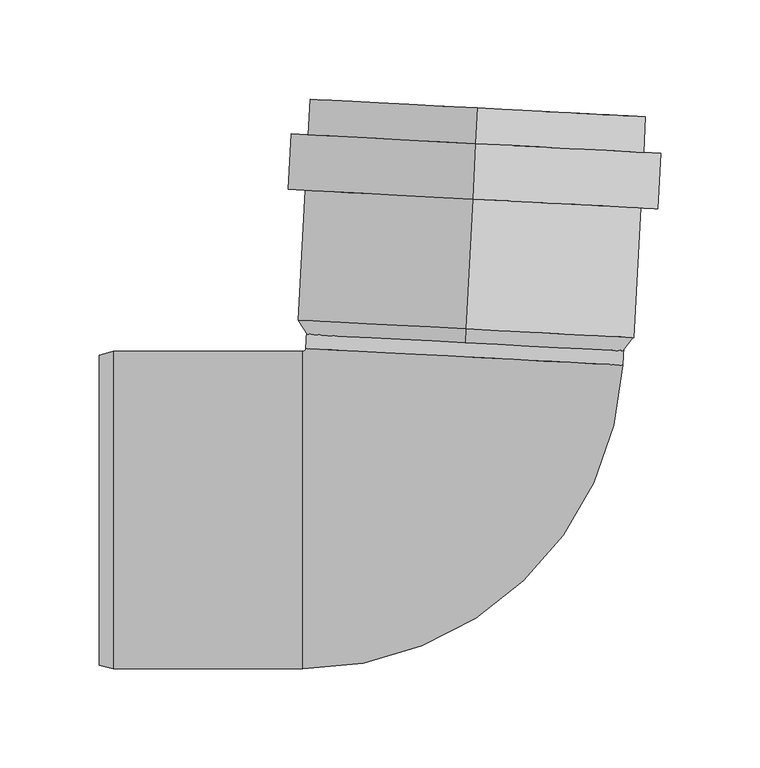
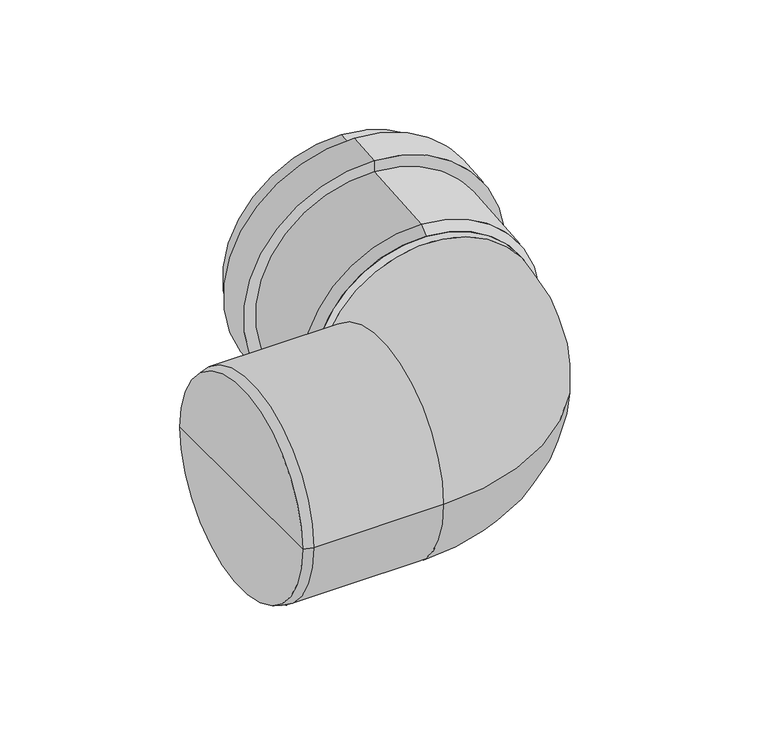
"""IFC4 building model written with IfcOpenShell, lengths in millimetres: pipe fitting geometry, OSMA_KG2000_PPKGB : Koleno 87°."""

import ifcopenshell
import ifcopenshell.guid

model = None  # the IFC model being written
_history = None  # IfcOwnerHistory: only IFC2X3 demands one
_inside = {}  # id of a spatial element -> (the spatial element, [elements in it])
_under = {}  # id of a project, library or spatial element -> (it, [spatial elements below it])
_declared = {}  # id of a project -> (the project, [libraries it declares])
_typed = {}  # id of a type object -> (the type object, [elements of that type])
_made_of = {}  # id of a material, layer set ... -> (it, [elements and type objects made of it])


def new_model(schema):
    """Start an empty IFC model of exactly this schema.

    Asked for "IFC4X3", IfcOpenShell would pick the latest addendum, in which some entities
    have other attributes; the version numbers below select the first issue.
    IFC2X3 requires an IfcOwnerHistory on every rooted entity: one is made here for all.
    """
    global model, _history
    if schema == "IFC4X3":
        model = ifcopenshell.file(schema_version=(4, 3, 0, 0))
    else:
        model = ifcopenshell.file(schema=schema)
    _inside.clear()
    _under.clear()
    _declared.clear()
    _typed.clear()
    _made_of.clear()
    _history = None
    if model.schema == "IFC2X3":
        org = make("IfcOrganization", Name="unknown")
        user = make(
            "IfcPersonAndOrganization",
            ThePerson=make("IfcPerson", FamilyName="unknown"),
            TheOrganization=org,
        )
        app = make(
            "IfcApplication",
            ApplicationDeveloper=org,
            Version="unknown",
            ApplicationFullName="unknown",
            ApplicationIdentifier="unknown",
        )
        _history = make(
            "IfcOwnerHistory",
            OwningUser=user,
            OwningApplication=app,
            ChangeAction="ADDED",
            CreationDate=0,
        )
    return model


def make(cls, **values):
    """One entity of the class cls with the attributes given. An attribute that is None is left unset."""
    return model.create_entity(
        cls, **{name: value for name, value in values.items() if value is not None}
    )


def rooted(cls, **values):
    """An entity with a GlobalId (a new one), such as an element, a storey or a relation."""
    return make(cls, GlobalId=ifcopenshell.guid.new(), OwnerHistory=_history, **values)


def si_unit(unit_type, name, prefix=None):
    """IfcSIUnit, for example si_unit("LENGTHUNIT", "METRE", prefix="MILLI")."""
    return make("IfcSIUnit", UnitType=unit_type, Prefix=prefix, Name=name)


def assignment(units):
    """IfcUnitAssignment: the units of a project."""
    return None if units is None else make("IfcUnitAssignment", Units=units)


def point(xyz):
    """IfcCartesianPoint."""
    return None if xyz is None else make("IfcCartesianPoint", Coordinates=xyz)


def direction(xyz):
    """IfcDirection."""
    return None if xyz is None else make("IfcDirection", DirectionRatios=xyz)


def frame(location, z_axis=None, x_axis=None):
    """IfcAxis2Placement3D, a coordinate frame: its origin and axes. An axis left out is left unset."""
    return make(
        "IfcAxis2Placement3D",
        Location=point(location),
        Axis=direction(z_axis),
        RefDirection=direction(x_axis),
    )


def origin():
    """The frame at (0, 0, 0) with its axes left unset."""
    return frame((0.0, 0.0, 0.0))


def place(relative_to, where):
    """IfcLocalPlacement: puts the frame where relative to a parent placement (None: the world)."""
    return make(
        "IfcLocalPlacement", PlacementRelTo=relative_to, RelativePlacement=where
    )


def context(
    kind, dimensions, precision=None, world=None, true_north=None, identifier=None
):
    """IfcGeometricRepresentationContext, for example the 3D "Model" context."""
    return make(
        "IfcGeometricRepresentationContext",
        ContextIdentifier=identifier,
        ContextType=kind,
        CoordinateSpaceDimension=dimensions,
        Precision=precision,
        WorldCoordinateSystem=world,
        TrueNorth=true_north,
    )


def project(units=None, contexts=None):
    """IfcProject with its units and contexts."""
    return rooted(
        "IfcProject",
        Name="project",
        RepresentationContexts=contexts,
        UnitsInContext=assignment(units),
    )


def spatial(cls, under=None, at=None, **own):
    """A site, building, storey or space (cls), placed at a placement, below another one or the project."""
    s = rooted(cls, ObjectPlacement=at, **own)
    if under is not None:
        _under.setdefault(under.id(), (under, []))[1].append(s)
    return s


def polyline(points):
    """IfcPolyline through the points."""
    return make("IfcPolyline", Points=[point(p) for p in points])


def circle_curve(where, radius):
    """IfcCircle in the frame where."""
    return make("IfcCircle", Position=where, Radius=radius)


def ellipse_curve(where, semi_axis1, semi_axis2):
    """IfcEllipse in the frame where."""
    return make(
        "IfcEllipse", Position=where, SemiAxis1=semi_axis1, SemiAxis2=semi_axis2
    )


def trimmed(basis, trim1, trim2, sense, master):
    """IfcTrimmedCurve: the piece of a basis curve between two trims."""
    return make(
        "IfcTrimmedCurve",
        BasisCurve=basis,
        Trim1=trim1,
        Trim2=trim2,
        SenseAgreement=sense,
        MasterRepresentation=master,
    )


def shape(context_of_items, identifier, shape_type, items):
    """IfcShapeRepresentation: the items that make up one representation, for example the "Body"."""
    return make(
        "IfcShapeRepresentation",
        ContextOfItems=context_of_items,
        RepresentationIdentifier=identifier,
        RepresentationType=shape_type,
        Items=items,
    )


def source(mapping_origin, context_of_items, identifier, shape_type, items):
    """IfcRepresentationMap: a shape defined once, which mapped items show again and again."""
    return make(
        "IfcRepresentationMap",
        MappingOrigin=mapping_origin,
        MappedRepresentation=shape(context_of_items, identifier, shape_type, items),
    )


def transform(
    local_origin,
    x_axis=None,
    y_axis=None,
    z_axis=None,
    scale=None,
    scale2=None,
    scale3=None,
    uniform=True,
):
    """IfcCartesianTransformationOperator3D, or its non-uniform kind. x_axis, y_axis, z_axis: its Axis1, 2, 3."""
    if uniform:
        return make(
            "IfcCartesianTransformationOperator3D",
            Axis1=direction(x_axis),
            Axis2=direction(y_axis),
            LocalOrigin=point(local_origin),
            Scale=scale,
            Axis3=direction(z_axis),
        )
    return make(
        "IfcCartesianTransformationOperator3DnonUniform",
        Axis1=direction(x_axis),
        Axis2=direction(y_axis),
        LocalOrigin=point(local_origin),
        Scale=scale,
        Axis3=direction(z_axis),
        Scale2=scale2,
        Scale3=scale3,
    )


def mapped(mapping_source, mapping_target):
    """IfcMappedItem: shows the shape of a source again, moved by a transform."""
    return make(
        "IfcMappedItem", MappingSource=mapping_source, MappingTarget=mapping_target
    )


def made_of(thing, what):
    """Note that an element or type object is made of a material, layer set ...; save() writes the relation."""
    if what is not None:
        _made_of.setdefault(what.id(), (what, []))[1].append(thing)
    return thing


def element(
    cls,
    number,
    at=None,
    inside=None,
    cuts=None,
    type_object=None,
    material=None,
    context=None,
    identifier="Body",
    shape_type=None,
    held_by="IfcProductDefinitionShape",
    body=None,
    shapes=None,
    **own,
):
    """One element of the class cls, such as IfcWall. Its Tag is "e" and its number.

    at: its placement. inside: the storey or other place that contains it. cuts: it is an
    opening in that element (IfcRelVoidsElement). A single representation is given by context,
    identifier, shape_type and body (its items); several are given by shapes. held_by: the class
    of the entity that holds the representations. save() writes the other relations.
    """
    e = rooted(cls, Tag="e%d" % number, ObjectPlacement=at, **own)
    if body is not None:
        shapes = [shape(context, identifier, shape_type, body)]
    if shapes is not None:
        e.Representation = make(held_by, Representations=shapes)
    if inside is not None:
        _inside.setdefault(inside.id(), (inside, []))[1].append(e)
    if cuts is not None:
        rooted(
            "IfcRelVoidsElement", RelatingBuildingElement=cuts, RelatedOpeningElement=e
        )
    if type_object is not None:
        _typed.setdefault(type_object.id(), (type_object, []))[1].append(e)
    return made_of(e, material)


def aggregate(whole, parts):
    """IfcRelAggregates: a whole, such as a stair, and the parts it consists of."""
    return rooted("IfcRelAggregates", RelatingObject=whole, RelatedObjects=parts)


def save(model, path):
    """Write the relations noted so far, then the file.

    IfcRelAggregates (storeys below a building ...), IfcRelContainedInSpatialStructure (elements
    in a storey), IfcRelDefinesByType, IfcRelAssociatesMaterial and IfcRelDeclares: one each for
    every whole, place, type object, material and project.
    """
    for whole, parts in _under.values():
        aggregate(whole, parts)
    for where, things in _inside.values():
        rooted(
            "IfcRelContainedInSpatialStructure",
            RelatedElements=things,
            RelatingStructure=where,
        )
    for kind, things in _typed.values():
        rooted("IfcRelDefinesByType", RelatedObjects=things, RelatingType=kind)
    for what, things in _made_of.values():
        rooted("IfcRelAssociatesMaterial", RelatedObjects=things, RelatingMaterial=what)
    for by, libraries in _declared.values():
        rooted("IfcRelDeclares", RelatingContext=by, RelatedDefinitions=libraries)
    model.write(path)


def plane_surface(at):
    """IfcPlane: the flat surface through the origin of the frame at, square to its z axis."""
    return make("IfcPlane", Position=at)


def cylinder_surface(at, radius):
    """IfcCylindricalSurface: all points at the distance radius from the z axis of the frame at."""
    return make("IfcCylindricalSurface", Position=at, Radius=radius)


def revolved_surface(curve, axis_point, axis_direction):
    """IfcSurfaceOfRevolution: the curve turned about the line through axis_point along axis_direction."""
    return make(
        "IfcSurfaceOfRevolution",
        SweptCurve=make("IfcArbitraryOpenProfileDef", ProfileType="CURVE", Curve=curve),
        AxisPosition=make("IfcAxis1Placement", Location=point(axis_point), Axis=direction(axis_direction)),
    )


def advanced_brep(points, edges, surfaces, faces):
    """IfcAdvancedBrep: a solid bounded by faces that lie on surfaces and meet in shared edges.

    An edge is (start, end): straight between two places in points (the first is 0);
    or (start, end, curve); or (start, end, curve, False) where it runs against its curve.
    A face is (place in surfaces, loops), or (place, loops, False) where it looks against
    its surface's normal. A loop lists edges by number (the first is 1), with a minus sign
    where the edge is run from its end to its start. The first loop is the outer one.
    """
    corners = [point(p) for p in points]
    vertices = [make("IfcVertexPoint", VertexGeometry=c) for c in corners]
    made = []
    for start, end, *more in edges:
        made.append(
            make(
                "IfcEdgeCurve",
                EdgeStart=vertices[start],
                EdgeEnd=vertices[end],
                EdgeGeometry=more[0] if more else make("IfcPolyline", Points=[corners[start], corners[end]]),
                SameSense=more[1] if len(more) > 1 else True,
            )
        )
    hull = []
    for where, loops, *sense in faces:
        bounds = []
        for j, loop in enumerate(loops):
            ring = [make("IfcOrientedEdge", EdgeElement=made[abs(k) - 1], Orientation=k > 0) for k in loop]
            bounds.append(
                make(
                    "IfcFaceOuterBound" if j == 0 else "IfcFaceBound",
                    Bound=make("IfcEdgeLoop", EdgeList=ring),
                    Orientation=True,
                )
            )
        hull.append(make("IfcAdvancedFace", Bounds=bounds, FaceSurface=surfaces[where], SameSense=sense[0] if sense else True))
    return make("IfcAdvancedBrep", Outer=make("IfcClosedShell", CfsFaces=hull))


def pipe_fitting_b5a82955(model_context):
    return source(origin(), model_context, "Body", "AdvancedBrep", [
        advanced_brep(
        [(4.78874, 91.3746024, 80.0), (4.78874, 91.3746024, -80.0), (10.6241991, 202.7217956, -80.0), (10.6241991, 202.7217956, 80.0), (8.2167451, 156.784837, 84.9), (8.2167451, 156.784837, -84.9), (4.78874, 91.3746024, -84.9), (4.78874, 91.3746024, 84.9), (8.2167451, 156.784837, 93.5), (8.2167451, 156.784837, -93.5), (9.6821519, 184.7464639, 93.5), (9.6821519, 184.7464639, -93.5), (9.6821519, 184.7464639, 84.9), (9.6821519, 184.7464639, -84.9), (10.6241991, 202.7217956, 84.9), (10.6241991, 202.7217956, -84.9), (4.4223883, 84.3841957, 75.1), (4.4223883, 84.3841957, -75.1), (4.4223883, 84.3841957, 80.0), (4.4223883, 84.3841957, -80.0)],
        [
            (0, 1, circle_curve(frame((4.78874, 91.3746024, 0.0), z_axis=(-0.0523359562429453, -0.9986295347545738, 0.0), x_axis=(0.0, 0.0, -1.0)), 80.0)),
            (1, 2),
            (2, 3, circle_curve(frame((10.6241991, 202.7217956, 0.0), z_axis=(0.0523359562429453, 0.9986295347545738, 0.0), x_axis=(0.0, 0.0, -1.0)), 80.0)),
            (3, 0),
            (1, 0, circle_curve(frame((4.78874, 91.3746024, 0.0), z_axis=(-0.0523359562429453, -0.9986295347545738, 0.0), x_axis=(0.0, 0.0, -1.0)), 80.0)),
            (3, 2, circle_curve(frame((10.6241991, 202.7217956, 0.0), z_axis=(0.0523359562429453, 0.9986295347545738, 0.0), x_axis=(0.0, 0.0, -1.0)), 80.0)),
            (4, 5, circle_curve(frame((8.2167451, 156.784837, 0.0), z_axis=(-0.0523359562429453, -0.9986295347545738, 0.0), x_axis=(0.0, 0.0, -1.0)), 84.9)),
            (5, 6),
            (6, 7, circle_curve(frame((4.78874, 91.3746024, 0.0), z_axis=(0.0523359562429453, 0.9986295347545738, 0.0), x_axis=(0.0, 0.0, -1.0)), 84.9)),
            (7, 4),
            (5, 4, circle_curve(frame((8.2167451, 156.784837, 0.0), z_axis=(-0.0523359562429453, -0.9986295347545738, 0.0), x_axis=(0.0, 0.0, -1.0)), 84.9)),
            (7, 6, circle_curve(frame((4.78874, 91.3746024, 0.0), z_axis=(0.0523359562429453, 0.9986295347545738, 0.0), x_axis=(0.0, 0.0, -1.0)), 84.9)),
            (8, 9, circle_curve(frame((8.2167451, 156.784837, 0.0), z_axis=(-0.0523359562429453, -0.9986295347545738, 0.0), x_axis=(0.0, 0.0, -1.0)), 93.5)),
            (9, 5),
            (4, 8),
            (9, 8, circle_curve(frame((8.2167451, 156.784837, 0.0), z_axis=(-0.0523359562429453, -0.9986295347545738, 0.0), x_axis=(0.0, 0.0, -1.0)), 93.5)),
            (10, 11, circle_curve(frame((9.6821519, 184.7464639, 0.0), z_axis=(-0.0523359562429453, -0.9986295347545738, 0.0), x_axis=(0.0, 0.0, -1.0)), 93.5)),
            (11, 9),
            (8, 10),
            (11, 10, circle_curve(frame((9.6821519, 184.7464639, 0.0), z_axis=(-0.0523359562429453, -0.9986295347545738, 0.0), x_axis=(0.0, 0.0, -1.0)), 93.5)),
            (12, 13, circle_curve(frame((9.6821519, 184.7464639, 0.0), z_axis=(-0.0523359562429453, -0.9986295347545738, 0.0), x_axis=(0.0, 0.0, -1.0)), 84.9)),
            (13, 11),
            (10, 12),
            (13, 12, circle_curve(frame((9.6821519, 184.7464639, 0.0), z_axis=(-0.0523359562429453, -0.9986295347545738, 0.0), x_axis=(0.0, 0.0, -1.0)), 84.9)),
            (14, 15, circle_curve(frame((10.6241991, 202.7217956, 0.0), z_axis=(-0.0523359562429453, -0.9986295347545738, 0.0), x_axis=(0.0, 0.0, -1.0)), 84.9)),
            (15, 13),
            (12, 14),
            (15, 14, circle_curve(frame((10.6241991, 202.7217956, 0.0), z_axis=(-0.0523359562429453, -0.9986295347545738, 0.0), x_axis=(0.0, 0.0, -1.0)), 84.9)),
            (2, 15),
            (14, 3),
            (16, 17, circle_curve(frame((4.4223883, 84.3841957, 0.0), z_axis=(-0.0523359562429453, -0.9986295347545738, 0.0), x_axis=(0.0, 0.0, -1.0)), 75.1)),
            (17, 1),
            (0, 16),
            (17, 16, circle_curve(frame((4.4223883, 84.3841957, 0.0), z_axis=(-0.0523359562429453, -0.9986295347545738, 0.0), x_axis=(0.0, 0.0, -1.0)), 75.1)),
            (18, 19, circle_curve(frame((4.4223883, 84.3841957, 0.0), z_axis=(-0.0523359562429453, -0.9986295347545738, 0.0), x_axis=(0.0, 0.0, -1.0)), 80.0)),
            (19, 17),
            (16, 18),
            (19, 18, circle_curve(frame((4.4223883, 84.3841957, 0.0), z_axis=(-0.0523359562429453, -0.9986295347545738, 0.0), x_axis=(0.0, 0.0, -1.0)), 80.0)),
            (6, 19),
            (18, 7),
        ],
        [
            revolved_surface(polyline([(10.624199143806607, 202.72179559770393, -80.0), (4.788740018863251, 91.37460239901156, -80.0)]), (150.3336851, 2868.5375937, 0.0), (0.0523359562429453, 0.9986295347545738, 0.0)),
            cylinder_surface(frame((150.3336851, 2868.5375937, 0.0), z_axis=(0.0523359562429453, 0.9986295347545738, 0.0), x_axis=(0.0, 0.0, -1.0)), 84.9),
            plane_surface(frame((8.2167451, 156.784837, 0.0), z_axis=(-0.0523359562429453, -0.9986295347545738, 0.0), x_axis=(0.0, 0.0, -1.0))),
            cylinder_surface(frame((150.3336851, 2868.5375937, 0.0), z_axis=(0.0523359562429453, 0.9986295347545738, 0.0), x_axis=(0.0, 0.0, -1.0)), 93.5),
            plane_surface(frame((9.6821519, 184.7464639, 0.0), z_axis=(0.0523359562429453, 0.9986295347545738, 0.0), x_axis=(0.0, 0.0, -1.0))),
            plane_surface(frame((10.6241991, 202.7217956, 0.0), z_axis=(0.0523359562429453, 0.9986295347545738, 0.0), x_axis=(0.0, 0.0, -1.0))),
            revolved_surface(polyline([(4.78874, 91.3746024, -80.0), (4.4223883, 84.3841957, -75.1)]), (150.3336851, 2868.5375937, 0.0), (0.0523359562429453, 0.9986295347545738, 0.0)),
            plane_surface(frame((4.4223883, 84.3841957, 0.0), z_axis=(-0.0523359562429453, -0.9986295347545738, 0.0), x_axis=(0.0, 0.0, -1.0))),
            revolved_surface(polyline([(4.4223883, 84.3841957, -80.0), (4.78874, 91.3746024, -84.9)]), (150.3336851, 2868.5375937, 0.0), (0.0523359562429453, 0.9986295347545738, 0.0)),
        ],
        [
            (0, [[1, 2, 3, 4]]),
            (0, [[5, -4, 6, -2]]),
            (1, [[7, 8, 9, 10]]),
            (1, [[11, -10, 12, -8]]),
            (2, [[13, 14, -7, 15]]),
            (2, [[16, -15, -11, -14]]),
            (3, [[17, 18, -13, 19]]),
            (3, [[20, -19, -16, -18]]),
            (4, [[21, 22, -17, 23]]),
            (4, [[24, -23, -20, -22]]),
            (1, [[25, 26, -21, 27]]),
            (1, [[28, -27, -24, -26]]),
            (5, [[-3, 29, -25, 30]]),
            (5, [[-6, -30, -28, -29]]),
            (6, [[31, 32, -1, 33]]),
            (6, [[34, -33, -5, -32]]),
            (7, [[35, 36, -31, 37]]),
            (7, [[38, -37, -34, -36]]),
            (8, [[-9, 39, -35, 40]]),
            (8, [[-12, -40, -38, -39]]),
        ],
    ),
        advanced_brep(
        [(-75.8426679, 81.4214961, 0.0), (-77.3406122, 80.0, 0.0), (-77.3406122, -80.0, 0.0), (83.9380577, 73.0477431, 0.0), (4.0476949, 77.2346196, 80.0), (4.0476949, 77.2346196, -80.0), (-180.0, 0.0, 0.0), (-180.0, 78.1243556, 0.0), (-180.0, -78.1243556, 0.0), (-173.0, 80.0, 0.0), (-173.0, -80.0, 0.0), (84.6529348, 86.6884112, 0.0), (-75.1277908, 95.0621642, 0.0)],
        [
            (0, 1, circle_curve(frame((-77.3406122, 81.5, 0.0), z_axis=(0.0, 0.0, -1.0), x_axis=(0.0, -1.0, 0.0)), 1.5)),
            (1, 2, circle_curve(frame((-77.3406122, 0.0, 0.0), z_axis=(1.0, 0.0, 0.0), x_axis=(0.0, 1.0, 0.0)), 80.0)),
            (2, 3, circle_curve(frame((-77.3406122, 81.5, 0.0), z_axis=(0.0, 0.0, 1.0), x_axis=(0.0, -1.0, 0.0)), 161.5)),
            (3, 4, circle_curve(frame((4.0476949, 77.2346196, 0.0), z_axis=(-0.05233595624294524, -0.9986295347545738, 0.0), x_axis=(-0.9986295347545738, 0.05233595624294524, 0.0)), 80.0)),
            (4, 0, circle_curve(frame((4.0476949, 77.2346196, 0.0), z_axis=(-0.05233595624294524, -0.9986295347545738, 0.0), x_axis=(-0.9986295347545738, 0.05233595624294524, 0.0)), 80.0)),
            (0, 5, circle_curve(frame((4.0476949, 77.2346196, 0.0), z_axis=(-0.05233595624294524, -0.9986295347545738, 0.0), x_axis=(-0.9986295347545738, 0.05233595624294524, 0.0)), 80.0)),
            (5, 3, circle_curve(frame((4.0476949, 77.2346196, 0.0), z_axis=(-0.05233595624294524, -0.9986295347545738, 0.0), x_axis=(-0.9986295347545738, 0.05233595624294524, 0.0)), 80.0)),
            (2, 1, circle_curve(frame((-77.3406122, 0.0, 0.0), z_axis=(1.0, 0.0, 0.0), x_axis=(0.0, 1.0, 0.0)), 80.0)),
            (6, 7),
            (7, 8, circle_curve(frame((-180.0, 0.0, 0.0), z_axis=(-1.0, 0.0, 0.0), x_axis=(0.0, 1.0, 0.0)), 78.1243556)),
            (8, 6),
            (8, 7, circle_curve(frame((-180.0, 0.0, 0.0), z_axis=(-1.0, 0.0, 0.0), x_axis=(0.0, 1.0, 0.0)), 78.1243556)),
            (7, 9),
            (9, 10, circle_curve(frame((-173.0, 0.0, 0.0), z_axis=(-1.0, 0.0, 0.0), x_axis=(0.0, 1.0, 0.0)), 80.0)),
            (10, 8),
            (10, 9, circle_curve(frame((-173.0, 0.0, 0.0), z_axis=(-1.0, 0.0, 0.0), x_axis=(0.0, 1.0, 0.0)), 80.0)),
            (9, 1),
            (2, 10),
            (11, 12, circle_curve(frame((4.762572, 90.8752877, 0.0), z_axis=(0.052335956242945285, 0.9986295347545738, 0.0), x_axis=(-0.9986295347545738, 0.052335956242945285, 0.0)), 80.0)),
            (12, 11, circle_curve(frame((4.762572, 90.8752877, 0.0), z_axis=(0.052335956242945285, 0.9986295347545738, 0.0), x_axis=(-0.9986295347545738, 0.052335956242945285, 0.0)), 80.0)),
            (12, 0),
            (3, 11),
        ],
        [
            revolved_surface(trimmed(ellipse_curve(frame((-77.3406122, 0.0, 0.0), z_axis=(-1.0, 0.0, 0.0), x_axis=(0.0, 1.0, 0.0)), 80.0, 80.0), [point((-77.3406122, -80.0, 0.0))], [point((-77.3406122, 80.0, 0.0))], True, "CARTESIAN"), (-77.3406122, 81.5, 0.0), (0.0, 0.0, 1.0)),
            revolved_surface(trimmed(ellipse_curve(frame((-77.3406122, 0.0, 0.0), z_axis=(-1.0, 0.0, 0.0), x_axis=(0.0, 1.0, 0.0)), 80.0, 80.0), [point((-77.3406122, 80.0, 0.0))], [point((-77.3406122, -80.0, 0.0))], True, "CARTESIAN"), (-77.3406122, 81.5, 0.0), (0.0, 0.0, 1.0)),
            plane_surface(frame((-180.0, 0.0, 0.0), z_axis=(-1.0, 0.0, 0.0), x_axis=(0.0, 1.0, 0.0))),
            revolved_surface(polyline([(-173.0, 80.0, 0.0), (-180.0, 78.1243556, 0.0)]), (331.0587718, 0.0, 0.0), (-1.0, 0.0, 0.0)),
            cylinder_surface(frame((331.0587718, 0.0, 0.0), z_axis=(-1.0, 0.0, 0.0), x_axis=(0.0, 1.0, 0.0)), 80.0),
            plane_surface(frame((4.762572, 90.8752877, 0.0), z_axis=(0.052335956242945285, 0.9986295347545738, 0.0), x_axis=(0.0, 0.0, 1.0))),
            cylinder_surface(frame((4.0476949, 77.2346196, 0.0), z_axis=(-0.052335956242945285, -0.9986295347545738, 0.0), x_axis=(-0.9986295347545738, 0.052335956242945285, 0.0)), 80.0),
        ],
        [
            (0, [[1, 2, 3, 4, 5]]),
            (1, [[-1, 6, 7, -3, 8]]),
            (2, [[9, 10, 11]]),
            (2, [[-9, -11, 12]]),
            (3, [[-10, 13, 14, 15]]),
            (3, [[-12, -15, 16, -13]]),
            (4, [[-14, 17, -8, 18]]),
            (4, [[-16, -18, -2, -17]]),
            (5, [[19, 20]]),
            (6, [[-20, 21, -5, -4, 22]]),
            (6, [[-19, -22, -7, -6, -21]]),
        ],
    ),
    ])


if __name__ == "__main__":
    model = new_model("IFC4")
    model_context = context("Model", 3, world=origin())
    ifc_project = project(units=[si_unit("LENGTHUNIT", "METRE", prefix="MILLI")], contexts=[model_context])
    site = spatial("IfcSite", under=ifc_project)
    building = spatial("IfcBuilding", under=site)
    placement = place(None, origin())
    pipe_fitting_shape = pipe_fitting_b5a82955(model_context)
    element("IfcPipeFitting", 1, ObjectType="OSMA_KG2000_PPKGB : Koleno 87°", at=placement, inside=building, context=model_context, shape_type="MappedRepresentation", body=[
        mapped(pipe_fitting_shape, transform((0.0, 0.0, 0.0), x_axis=(1.0, 0.0, 0.0), y_axis=(0.0, 1.0, 0.0), z_axis=(0.0, 0.0, 1.0))),
    ])
    save(model, "model.ifc")
